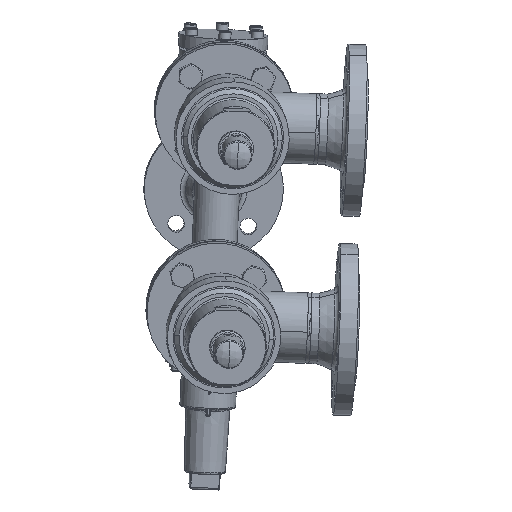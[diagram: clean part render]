
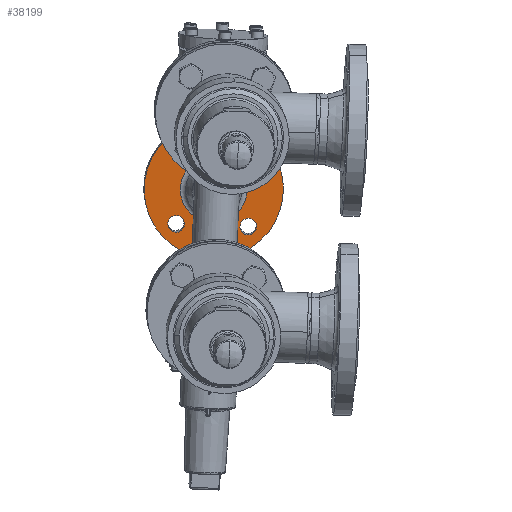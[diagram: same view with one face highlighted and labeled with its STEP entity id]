
A CAD part, left-side view. The second image highlights one B-rep face of the part: STEP entity #38199.
In plain terms, the highlighted planar face has unit normal (-0.993, -0.035, -0.115) as drawn and (0, 1, 0) by its records, which use the part's own axes.
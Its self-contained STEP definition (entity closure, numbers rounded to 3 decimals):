
#16434 = CARTESIAN_POINT ( 'NONE',  ( -9., 18., 55. ) ) ;
#49274 = ORIENTED_EDGE ( 'NONE', *, *, #23722, .F. ) ;
#32913 = CARTESIAN_POINT ( 'NONE',  ( -75., 18., 0. ) ) ;
#16736 = VERTEX_POINT ( 'NONE', #5428 ) ;
#33337 = ORIENTED_EDGE ( 'NONE', *, *, #2376, .F. ) ;
#617 = EDGE_LOOP ( 'NONE', ( #51115, #49274 ) ) ;
#17232 = CIRCLE ( 'NONE', #17233, 36.091 ) ;
#17233 = AXIS2_PLACEMENT_3D ( 'NONE', #17281, #17282, #17283 ) ;
#17281 = CARTESIAN_POINT ( 'NONE',  ( 0., 18., 0. ) ) ;
#17282 = DIRECTION ( 'NONE',  ( 0., 1., 0. ) ) ;
#17283 = DIRECTION ( 'NONE',  ( -1., 0., 0. ) ) ;
#33683 = CIRCLE ( 'NONE', #33684, 75. ) ;
#33684 = AXIS2_PLACEMENT_3D ( 'NONE', #33685, #33686, #33687 ) ;
#33685 = CARTESIAN_POINT ( 'NONE',  ( 0., 18., 0. ) ) ;
#33686 = DIRECTION ( 'NONE',  ( 0., 1., 0. ) ) ;
#33687 = DIRECTION ( 'NONE',  ( -1., 0., 0. ) ) ;
#17336 = CIRCLE ( 'NONE', #17337, 9. ) ;
#17337 = AXIS2_PLACEMENT_3D ( 'NONE', #17338, #17339, #17340 ) ;
#17338 = CARTESIAN_POINT ( 'NONE',  ( 0., 18., 55. ) ) ;
#17339 = DIRECTION ( 'NONE',  ( 0., 1., 0. ) ) ;
#17340 = DIRECTION ( 'NONE',  ( 0., 0., -1. ) ) ;
#17367 = EDGE_LOOP ( 'NONE', ( #15851, #14316 ) ) ;
#1134 = ORIENTED_EDGE ( 'NONE', *, *, #14098, .F. ) ;
#50358 = EDGE_CURVE ( 'NONE', #23063, #26348, #38402, .T. ) ;
#1794 = VERTEX_POINT ( 'NONE', #11096 ) ;
#1912 = VERTEX_POINT ( 'NONE', #11154 ) ;
#51115 = ORIENTED_EDGE ( 'NONE', *, *, #50358, .F. ) ;
#34863 = EDGE_CURVE ( 'NONE', #1912, #32078, #36582, .T. ) ;
#2215 = EDGE_CURVE ( 'NONE', #13443, #16736, #11535, .T. ) ;
#2252 = EDGE_CURVE ( 'NONE', #32189, #1794, #11546, .T. ) ;
#2376 = EDGE_CURVE ( 'NONE', #32078, #1912, #12207, .T. ) ;
#35970 = ORIENTED_EDGE ( 'NONE', *, *, #34863, .F. ) ;
#36582 = CIRCLE ( 'NONE', #36583, 9. ) ;
#36583 = AXIS2_PLACEMENT_3D ( 'NONE', #36584, #36585, #36586 ) ;
#36584 = CARTESIAN_POINT ( 'NONE',  ( 0., 18., -55. ) ) ;
#36585 = DIRECTION ( 'NONE',  ( 0., 1., 0. ) ) ;
#36586 = DIRECTION ( 'NONE',  ( 0., 0., 1. ) ) ;
#20732 = CARTESIAN_POINT ( 'NONE',  ( 36.091, 18., 0. ) ) ;
#20850 = CARTESIAN_POINT ( 'NONE',  ( 9., 18., 55. ) ) ;
#37495 = EDGE_LOOP ( 'NONE', ( #35970, #33337 ) ) ;
#5428 = CARTESIAN_POINT ( 'NONE',  ( -46., 18., 0. ) ) ;
#38199 = ADVANCED_FACE ( 'NONE', ( #40959, #40960, #40961, #40962, #40963, #40964 ), #40965, .F. ) ;
#38402 = CIRCLE ( 'NONE', #38403, 9. ) ;
#38403 = AXIS2_PLACEMENT_3D ( 'NONE', #38404, #38405, #38406 ) ;
#38404 = CARTESIAN_POINT ( 'NONE',  ( 0., 18., 55. ) ) ;
#38405 = DIRECTION ( 'NONE',  ( 0., 1., 0. ) ) ;
#38406 = DIRECTION ( 'NONE',  ( 0., 0., -1. ) ) ;
#39353 = EDGE_CURVE ( 'NONE', #23006, #26289, #41933, .T. ) ;
#23006 = VERTEX_POINT ( 'NONE', #16370 ) ;
#23063 = VERTEX_POINT ( 'NONE', #16434 ) ;
#23666 = EDGE_CURVE ( 'NONE', #26289, #23006, #17232, .T. ) ;
#23722 = EDGE_CURVE ( 'NONE', #26348, #23063, #17336, .T. ) ;
#40959 = FACE_BOUND ( 'NONE', #37495, .T. ) ;
#40960 = FACE_BOUND ( 'NONE', #32623, .T. ) ;
#40961 = FACE_BOUND ( 'NONE', #617, .T. ) ;
#40962 = FACE_BOUND ( 'NONE', #48763, .T. ) ;
#40963 = FACE_BOUND ( 'NONE', #17367, .T. ) ;
#40964 = FACE_OUTER_BOUND ( 'NONE', #13613, .T. ) ;
#40965 = PLANE ( 'NONE',  #40966 ) ;
#40966 = AXIS2_PLACEMENT_3D ( 'NONE', #40967, #40968, #40969 ) ;
#40967 = CARTESIAN_POINT ( 'NONE',  ( 75., 18., 0. ) ) ;
#40968 = DIRECTION ( 'NONE',  ( 0., -1., 0. ) ) ;
#40969 = DIRECTION ( 'NONE',  ( 1., 0., 0. ) ) ;
#41933 = CIRCLE ( 'NONE', #41934, 36.091 ) ;
#41934 = AXIS2_PLACEMENT_3D ( 'NONE', #41935, #41936, #41937 ) ;
#41935 = CARTESIAN_POINT ( 'NONE',  ( 0., 18., 0. ) ) ;
#41936 = DIRECTION ( 'NONE',  ( 0., 1., 0. ) ) ;
#41937 = DIRECTION ( 'NONE',  ( -1., 0., 0. ) ) ;
#9451 = EDGE_CURVE ( 'NONE', #13832, #10543, #30411, .T. ) ;
#26218 = CIRCLE ( 'NONE', #26219, 9. ) ;
#26219 = AXIS2_PLACEMENT_3D ( 'NONE', #26220, #26221, #26222 ) ;
#26220 = CARTESIAN_POINT ( 'NONE',  ( 55., 18., 0. ) ) ;
#26221 = DIRECTION ( 'NONE',  ( 0., 1., 0. ) ) ;
#26222 = DIRECTION ( 'NONE',  ( -1., 0., 0. ) ) ;
#26289 = VERTEX_POINT ( 'NONE', #20732 ) ;
#26348 = VERTEX_POINT ( 'NONE', #20850 ) ;
#10543 = VERTEX_POINT ( 'NONE', #32913 ) ;
#10544 = ORIENTED_EDGE ( 'NONE', *, *, #9451, .T. ) ;
#11096 = CARTESIAN_POINT ( 'NONE',  ( 46., 18., 0. ) ) ;
#11154 = CARTESIAN_POINT ( 'NONE',  ( -9., 18., -55. ) ) ;
#11200 = EDGE_CURVE ( 'NONE', #10543, #13832, #33683, .T. ) ;
#11535 = CIRCLE ( 'NONE', #11536, 9. ) ;
#11536 = AXIS2_PLACEMENT_3D ( 'NONE', #11537, #11538, #11539 ) ;
#11537 = CARTESIAN_POINT ( 'NONE',  ( -55., 18., 0. ) ) ;
#11538 = DIRECTION ( 'NONE',  ( 0., 1., 0. ) ) ;
#11539 = DIRECTION ( 'NONE',  ( 1., 0., 0. ) ) ;
#11546 = CIRCLE ( 'NONE', #11547, 9. ) ;
#11547 = AXIS2_PLACEMENT_3D ( 'NONE', #11548, #11549, #11588 ) ;
#11548 = CARTESIAN_POINT ( 'NONE',  ( 55., 18., 0. ) ) ;
#11549 = DIRECTION ( 'NONE',  ( 0., 1., 0. ) ) ;
#11588 = DIRECTION ( 'NONE',  ( -1., 0., 0. ) ) ;
#12087 = ORIENTED_EDGE ( 'NONE', *, *, #11200, .T. ) ;
#12207 = CIRCLE ( 'NONE', #12208, 9. ) ;
#12208 = AXIS2_PLACEMENT_3D ( 'NONE', #12209, #12247, #12248 ) ;
#12209 = CARTESIAN_POINT ( 'NONE',  ( 0., 18., -55. ) ) ;
#45005 = CARTESIAN_POINT ( 'NONE',  ( -64., 18., 0. ) ) ;
#12247 = DIRECTION ( 'NONE',  ( 0., 1., 0. ) ) ;
#12248 = DIRECTION ( 'NONE',  ( 0., 0., 1. ) ) ;
#45394 = CARTESIAN_POINT ( 'NONE',  ( 75., 18., 0. ) ) ;
#45632 = CIRCLE ( 'NONE', #45633, 9. ) ;
#45633 = AXIS2_PLACEMENT_3D ( 'NONE', #45634, #45635, #45636 ) ;
#45634 = CARTESIAN_POINT ( 'NONE',  ( -55., 18., 0. ) ) ;
#45635 = DIRECTION ( 'NONE',  ( 0., 1., 0. ) ) ;
#45636 = DIRECTION ( 'NONE',  ( 1., 0., 0. ) ) ;
#45822 = ORIENTED_EDGE ( 'NONE', *, *, #2252, .F. ) ;
#13443 = VERTEX_POINT ( 'NONE', #45005 ) ;
#13613 = EDGE_LOOP ( 'NONE', ( #12087, #10544 ) ) ;
#13832 = VERTEX_POINT ( 'NONE', #45394 ) ;
#30411 = CIRCLE ( 'NONE', #30412, 75. ) ;
#30412 = AXIS2_PLACEMENT_3D ( 'NONE', #30413, #30414, #30415 ) ;
#30413 = CARTESIAN_POINT ( 'NONE',  ( 0., 18., 0. ) ) ;
#30414 = DIRECTION ( 'NONE',  ( 0., 1., 0. ) ) ;
#30415 = DIRECTION ( 'NONE',  ( -1., 0., 0. ) ) ;
#14098 = EDGE_CURVE ( 'NONE', #16736, #13443, #45632, .T. ) ;
#46904 = EDGE_CURVE ( 'NONE', #1794, #32189, #26218, .T. ) ;
#14316 = ORIENTED_EDGE ( 'NONE', *, *, #23666, .F. ) ;
#47682 = ORIENTED_EDGE ( 'NONE', *, *, #46904, .F. ) ;
#31584 = ORIENTED_EDGE ( 'NONE', *, *, #2215, .F. ) ;
#32078 = VERTEX_POINT ( 'NONE', #32161 ) ;
#32161 = CARTESIAN_POINT ( 'NONE',  ( 9., 18., -55. ) ) ;
#32189 = VERTEX_POINT ( 'NONE', #32217 ) ;
#32217 = CARTESIAN_POINT ( 'NONE',  ( 64., 18., 0. ) ) ;
#15851 = ORIENTED_EDGE ( 'NONE', *, *, #39353, .F. ) ;
#48763 = EDGE_LOOP ( 'NONE', ( #47682, #45822 ) ) ;
#32623 = EDGE_LOOP ( 'NONE', ( #31584, #1134 ) ) ;
#16370 = CARTESIAN_POINT ( 'NONE',  ( -36.091, 18., 0. ) ) ;
